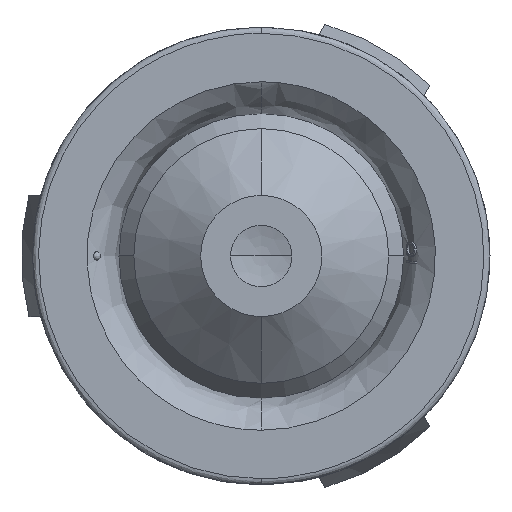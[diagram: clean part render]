
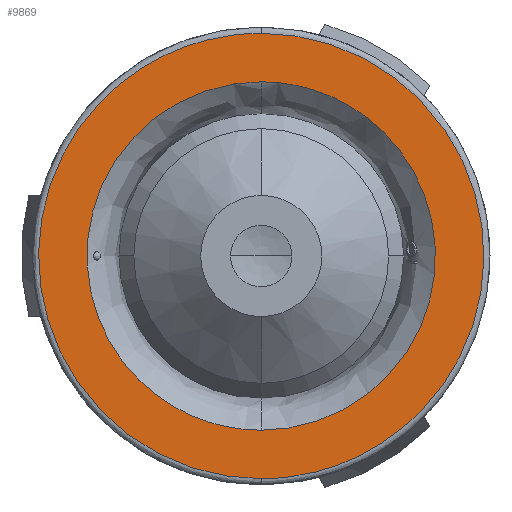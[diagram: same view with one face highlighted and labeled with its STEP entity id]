
A CAD part, left-side view. The second image highlights one B-rep face of the part: STEP entity #9869.
In plain terms, the highlighted planar face has unit normal (-1, 0, 0).
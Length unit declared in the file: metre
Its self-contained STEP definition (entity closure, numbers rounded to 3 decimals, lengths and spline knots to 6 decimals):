
#256 = CARTESIAN_POINT ( 'NONE',  ( 0., 0., 0.00575 ) ) ;
#262 = CARTESIAN_POINT ( 'NONE',  ( 0., -0.0115, 0.00575 ) ) ;
#402 = ORIENTED_EDGE ( 'NONE', *, *, #10538, .F. ) ;
#468 = CARTESIAN_POINT ( 'NONE',  ( 0., 0., 0.00735 ) ) ;
#585 = AXIS2_PLACEMENT_3D ( 'NONE', #1949, #5410, #1899 ) ;
#591 = CARTESIAN_POINT ( 'NONE',  ( 0., -0.0147, -0.00735 ) ) ;
#756 =( BOUNDED_CURVE ( )  B_SPLINE_CURVE ( 3, ( #2601, #9520, #262, #3713 ),
 .UNSPECIFIED., .F., .F. ) 
 B_SPLINE_CURVE_WITH_KNOTS ( ( 4, 4 ),
 ( 0., 0.017973 ),
 .UNSPECIFIED. ) 
 CURVE ( )  GEOMETRIC_REPRESENTATION_ITEM ( )  RATIONAL_B_SPLINE_CURVE ( ( 0.97, 0.323, 0.323, 0.97 ) ) 
 REPRESENTATION_ITEM ( '' )  );
#1411 = EDGE_CURVE ( 'NONE', #10524, #6145, #8183, .T. ) ;
#1796 = PLANE ( 'NONE',  #585 ) ;
#1805 =( BOUNDED_CURVE ( )  B_SPLINE_CURVE ( 3, ( #256, #14039, #8252, #12251 ),
 .UNSPECIFIED., .F., .T. ) 
 B_SPLINE_CURVE_WITH_KNOTS ( ( 4, 4 ),
 ( 0., 0.017973 ),
 .UNSPECIFIED. ) 
 CURVE ( )  GEOMETRIC_REPRESENTATION_ITEM ( )  RATIONAL_B_SPLINE_CURVE ( ( 0.97, 0.323, 0.323, 0.97 ) ) 
 REPRESENTATION_ITEM ( '' )  );
#1825 = EDGE_CURVE ( 'NONE', #10776, #8337, #756, .T. ) ;
#1899 = DIRECTION ( 'NONE',  ( 0., 0., -1. ) ) ;
#1949 = CARTESIAN_POINT ( 'NONE',  ( 0., -0.007438, 0.007438 ) ) ;
#2280 = ORIENTED_EDGE ( 'NONE', *, *, #2678, .F. ) ;
#2601 = CARTESIAN_POINT ( 'NONE',  ( 0., 0., -0.00575 ) ) ;
#2678 = EDGE_CURVE ( 'NONE', #6145, #10524, #13100, .T. ) ;
#2854 = CARTESIAN_POINT ( 'NONE',  ( 0., 0., -0.00735 ) ) ;
#3713 = CARTESIAN_POINT ( 'NONE',  ( 0., 0., 0.00575 ) ) ;
#5316 = CARTESIAN_POINT ( 'NONE',  ( 0., 0., -0.00735 ) ) ;
#5410 = DIRECTION ( 'NONE',  ( 1., 0., 0. ) ) ;
#5591 = ORIENTED_EDGE ( 'NONE', *, *, #1825, .F. ) ;
#5676 = EDGE_LOOP ( 'NONE', ( #5591, #402 ) ) ;
#5722 = CARTESIAN_POINT ( 'NONE',  ( 0., 0., -0.00575 ) ) ;
#6126 = FACE_OUTER_BOUND ( 'NONE', #10572, .T. ) ;
#6145 = VERTEX_POINT ( 'NONE', #7498 ) ;
#6422 = CARTESIAN_POINT ( 'NONE',  ( 0., 0., 0.00735 ) ) ;
#7149 = CARTESIAN_POINT ( 'NONE',  ( 0., 0., -0.00735 ) ) ;
#7403 = CARTESIAN_POINT ( 'NONE',  ( 0., 0.0147, 0.00735 ) ) ;
#7498 = CARTESIAN_POINT ( 'NONE',  ( 0., 0., 0.00735 ) ) ;
#7671 = CARTESIAN_POINT ( 'NONE',  ( 0., -0.0147, 0.00735 ) ) ;
#8183 =( BOUNDED_CURVE ( )  B_SPLINE_CURVE ( 3, ( #2854, #10995, #7403, #468 ),
 .UNSPECIFIED., .F., .T. ) 
 B_SPLINE_CURVE_WITH_KNOTS ( ( 4, 4 ),
 ( 0., 1. ),
 .UNSPECIFIED. ) 
 CURVE ( )  GEOMETRIC_REPRESENTATION_ITEM ( )  RATIONAL_B_SPLINE_CURVE ( ( 0.957, 0.319, 0.319, 0.957 ) ) 
 REPRESENTATION_ITEM ( '' )  );
#8252 = CARTESIAN_POINT ( 'NONE',  ( 0., 0.0115, -0.00575 ) ) ;
#8337 = VERTEX_POINT ( 'NONE', #14188 ) ;
#9520 = CARTESIAN_POINT ( 'NONE',  ( 0., -0.0115, -0.00575 ) ) ;
#9869 = ADVANCED_FACE ( 'NONE', ( #12086, #6126 ), #1796, .F. ) ;
#10524 = VERTEX_POINT ( 'NONE', #7149 ) ;
#10538 = EDGE_CURVE ( 'NONE', #8337, #10776, #1805, .T. ) ;
#10572 = EDGE_LOOP ( 'NONE', ( #2280, #13440 ) ) ;
#10776 = VERTEX_POINT ( 'NONE', #5722 ) ;
#10995 = CARTESIAN_POINT ( 'NONE',  ( 0., 0.0147, -0.00735 ) ) ;
#12086 = FACE_BOUND ( 'NONE', #5676, .T. ) ;
#12251 = CARTESIAN_POINT ( 'NONE',  ( 0., 0., -0.00575 ) ) ;
#13100 =( BOUNDED_CURVE ( )  B_SPLINE_CURVE ( 3, ( #6422, #7671, #591, #5316 ),
 .UNSPECIFIED., .F., .T. ) 
 B_SPLINE_CURVE_WITH_KNOTS ( ( 4, 4 ),
 ( 0., 1. ),
 .UNSPECIFIED. ) 
 CURVE ( )  GEOMETRIC_REPRESENTATION_ITEM ( )  RATIONAL_B_SPLINE_CURVE ( ( 0.957, 0.319, 0.319, 0.957 ) ) 
 REPRESENTATION_ITEM ( '' )  );
#13440 = ORIENTED_EDGE ( 'NONE', *, *, #1411, .F. ) ;
#14039 = CARTESIAN_POINT ( 'NONE',  ( 0., 0.0115, 0.00575 ) ) ;
#14188 = CARTESIAN_POINT ( 'NONE',  ( 0., 0., 0.00575 ) ) ;
